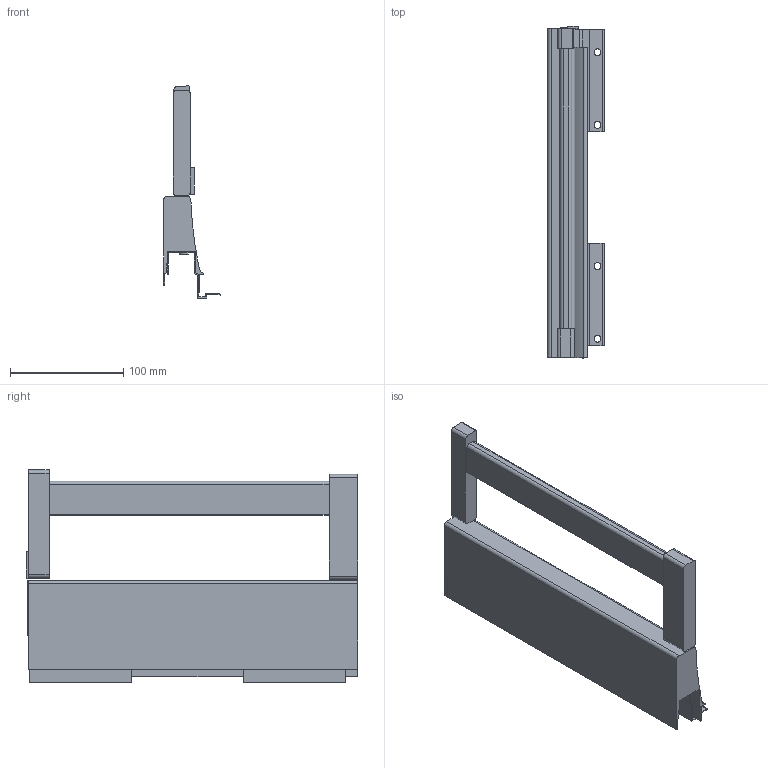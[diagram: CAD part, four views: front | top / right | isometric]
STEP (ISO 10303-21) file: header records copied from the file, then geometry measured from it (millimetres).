
FILE_DESCRIPTION (( 'STEP AP214' ), '1' );
FILE_NAME ('_XP Agantis Dekorseite H95 NL300 LI Rechteckreling.step', '2010-07-08T06:08:20', ( 'grass' ), ( '' ), 'SwSTEP 2.0', 'SolidWorks 2010', '' );
FILE_SCHEMA (( 'AUTOMOTIVE_DESIGN' ));
Length unit declared in the file: millimetre
Products named in the file (1): _XP Agantis Dekorseite H95 NL300 LI Rechteckreling
Bounding box: 50.01 x 292.45 x 187 mm (x, y, z)
Volume: 542541.5 mm3; surface area: 133821.3 mm2
Topology: 2 solids, 2 shells, 138 faces, 393 edges, 258 vertices
Faces by surface type: plane 103, cylinder 35
Entity records: 4519 total; most frequent: CARTESIAN_POINT 790, ORIENTED_EDGE 786, DIRECTION 742, EDGE_CURVE 393, VECTOR 322, LINE 322, VERTEX_POINT 258, AXIS2_PLACEMENT_3D 210
